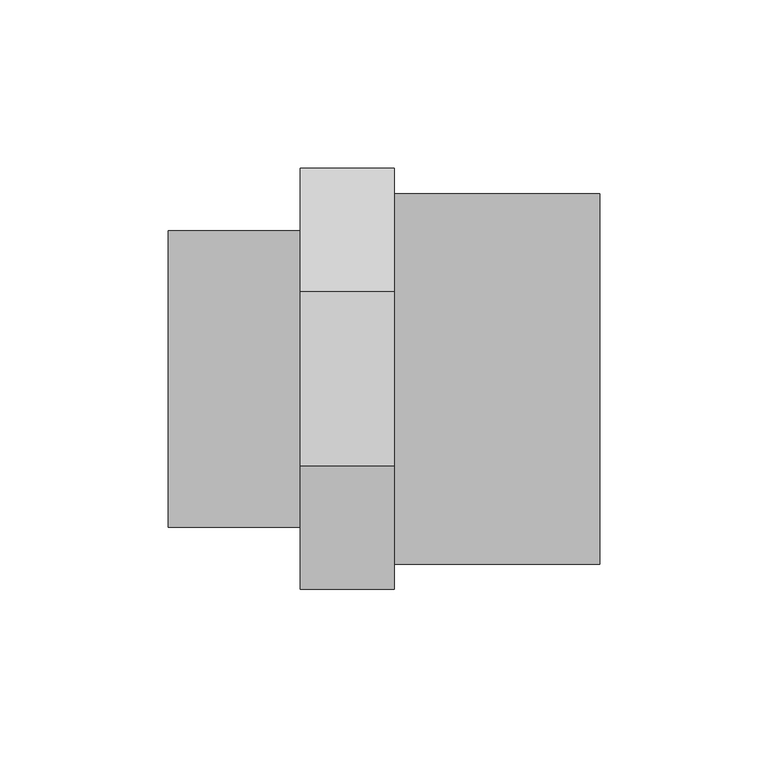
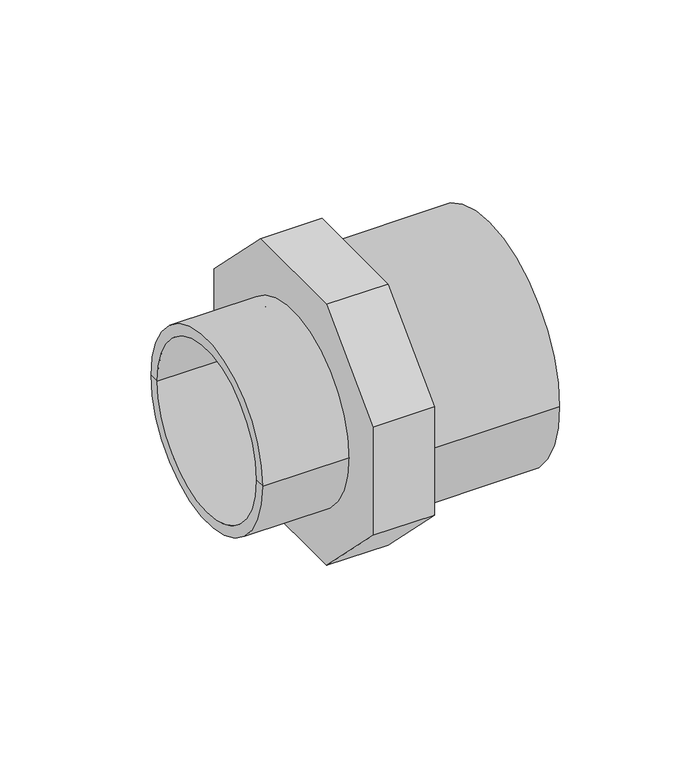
"""IFC4 building model written with IfcOpenShell, lengths in millimetres: pipe fitting geometry, Durapipe_PipeFitting_PVC_MaleThreadedAdaptors : 110 x 90 x G3."""

from ifc_helpers import new_model, si_unit, point, frame, origin, origin_2d, place, context, project, spatial, polyline, circle_curve, trimmed, segment, composite_curve, outline, extrude, source, transform, mapped, element, save
from ifc_brep_helpers import plane_surface, cylinder_surface, revolved_surface, advanced_brep


def pipe_fitting_d07ed563(model_context):
    return source(origin(), model_context, "Body", "SolidModel", [
        extrude(outline(polyline([(62.5, 25.8883476), (62.5, -25.8883476), (25.8883476, -62.5), (-25.8883476, -62.5), (-62.5, -25.8883476), (-62.5, 25.8883476), (-25.8883476, 62.5), (25.8883476, 62.5), (62.5, 25.8883476)]), holes=[composite_curve([segment(trimmed(circle_curve(origin_2d(), 39.0), [point((39.0, 0.0))], [point((-39.0, 0.0))], True, "CARTESIAN"), True, "CONTINUOUS"), segment(trimmed(circle_curve(origin_2d(), 39.0), [point((-39.0, 0.0))], [point((39.0, 0.0))], True, "CARTESIAN"), True, "CONTINUOUS")], self_intersect=False)]), frame((-27.8, 0.0, 0.0), z_axis=(1.0, 0.0, 0.0), x_axis=(0.0, 1.0, 0.0)), (0.0, 0.0, 1.0), 27.8),
        advanced_brep(
        [(0.0, -55.0, 0.0), (0.0, 55.0, 0.0), (61.0, 55.0, 0.0), (61.0, -55.0, 0.0), (61.0, 45.0, 0.0), (61.0, -45.0, 0.0), (0.0, 0.0, 0.0), (10.0, 45.0, 0.0), (10.0, -45.0, 0.0), (10.0, 0.0, 0.0)],
        [
            (0, 1, circle_curve(frame((0.0, 0.0, 0.0), z_axis=(1.0, 0.0, 0.0), x_axis=(0.0, 1.0, 0.0)), 55.0)),
            (1, 2),
            (2, 3, circle_curve(frame((61.0, 0.0, 0.0), z_axis=(-1.0, 0.0, 0.0), x_axis=(0.0, 1.0, 0.0)), 55.0)),
            (3, 0),
            (1, 0, circle_curve(frame((0.0, 0.0, 0.0), z_axis=(1.0, 0.0, 0.0), x_axis=(0.0, 1.0, 0.0)), 55.0)),
            (3, 2, circle_curve(frame((61.0, 0.0, 0.0), z_axis=(-1.0, 0.0, 0.0), x_axis=(0.0, 1.0, 0.0)), 55.0)),
            (2, 4),
            (4, 5, circle_curve(frame((61.0, 0.0, 0.0), z_axis=(-1.0, 0.0, 0.0), x_axis=(0.0, 1.0, 0.0)), 45.0)),
            (5, 3),
            (5, 4, circle_curve(frame((61.0, 0.0, 0.0), z_axis=(-1.0, 0.0, 0.0), x_axis=(0.0, 1.0, 0.0)), 45.0)),
            (0, 6),
            (6, 1),
            (7, 8, circle_curve(frame((10.0, 0.0, 0.0), z_axis=(-1.0, 0.0, 0.0), x_axis=(0.0, 1.0, 0.0)), 45.0)),
            (8, 5),
            (4, 7),
            (8, 7, circle_curve(frame((10.0, 0.0, 0.0), z_axis=(-1.0, 0.0, 0.0), x_axis=(0.0, 1.0, 0.0)), 45.0)),
            (7, 9),
            (9, 8),
        ],
        [
            cylinder_surface(frame((462.4572068, 0.0, 0.0), z_axis=(-1.0, 0.0, 0.0), x_axis=(0.0, 1.0, 0.0)), 55.0),
            plane_surface(frame((61.0, 0.0, 0.0), z_axis=(1.0, 0.0, 0.0), x_axis=(0.0, 1.0, 0.0))),
            plane_surface(frame((0.0, 0.0, 0.0), z_axis=(-1.0, 0.0, 0.0), x_axis=(0.0, 1.0, 0.0))),
            revolved_surface(polyline([(10.0, 45.0, 0.0), (61.0, 45.0, 0.0)]), (74.5575137, 0.0, 0.0), (-1.0, 0.0, 0.0)),
            plane_surface(frame((10.0, 0.0, 0.0), z_axis=(1.0, 0.0, 0.0), x_axis=(0.0, 1.0, 0.0))),
        ],
        [
            (0, [[1, 2, 3, 4]]),
            (0, [[-2, 5, -4, 6]]),
            (1, [[-3, 7, 8, 9]]),
            (1, [[-6, -9, 10, -7]]),
            (2, [[-1, 11, 12]]),
            (2, [[-5, -12, -11]]),
            (3, [[13, 14, -8, 15]]),
            (3, [[16, -15, -10, -14]]),
            (4, [[-13, 17, 18]]),
            (4, [[-16, -18, -17]]),
        ],
    ),
        advanced_brep(
        [(-27.8, -39.0, 0.0), (-27.8, 39.0, 0.0), (-67.0, 39.0, 0.0), (-67.0, -39.0, 0.0), (-27.8, -43.95, 0.0), (-27.8, 43.95, 0.0), (-67.0, -43.95, 0.0), (-67.0, 43.95, 0.0)],
        [
            (0, 1, circle_curve(frame((-27.8, 0.0, 0.0), z_axis=(1.0, 0.0, 0.0), x_axis=(0.0, 1.0, 0.0)), 39.0)),
            (1, 2),
            (2, 3, circle_curve(frame((-67.0, 0.0, 0.0), z_axis=(-1.0, 0.0, 0.0), x_axis=(0.0, 1.0, 0.0)), 39.0)),
            (3, 0),
            (1, 0, circle_curve(frame((-27.8, 0.0, 0.0), z_axis=(1.0, 0.0, 0.0), x_axis=(0.0, 1.0, 0.0)), 39.0)),
            (3, 2, circle_curve(frame((-67.0, 0.0, 0.0), z_axis=(-1.0, 0.0, 0.0), x_axis=(0.0, 1.0, 0.0)), 39.0)),
            (4, 5, circle_curve(frame((-27.8, 0.0, 0.0), z_axis=(1.0, 0.0, 0.0), x_axis=(0.0, 1.0, 0.0)), 43.95)),
            (5, 1),
            (0, 4),
            (5, 4, circle_curve(frame((-27.8, 0.0, 0.0), z_axis=(1.0, 0.0, 0.0), x_axis=(0.0, 1.0, 0.0)), 43.95)),
            (6, 7, circle_curve(frame((-67.0, 0.0, 0.0), z_axis=(1.0, 0.0, 0.0), x_axis=(0.0, 1.0, 0.0)), 43.95)),
            (7, 5),
            (4, 6),
            (7, 6, circle_curve(frame((-67.0, 0.0, 0.0), z_axis=(1.0, 0.0, 0.0), x_axis=(0.0, 1.0, 0.0)), 43.95)),
            (2, 7),
            (6, 3),
        ],
        [
            revolved_surface(polyline([(-67.0, 39.0, 0.0), (-27.799999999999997, 39.0, 0.0)]), (-82.0, 0.0, 0.0), (-1.0, 0.0, 0.0)),
            plane_surface(frame((-27.8, 0.0, 0.0), z_axis=(1.0, 0.0, 0.0), x_axis=(0.0, 1.0, 0.0))),
            cylinder_surface(frame((-82.0, 0.0, 0.0), z_axis=(-1.0, 0.0, 0.0), x_axis=(0.0, 1.0, 0.0)), 43.95),
            plane_surface(frame((-67.0, 0.0, 0.0), z_axis=(-1.0, 0.0, 0.0), x_axis=(0.0, 1.0, 0.0))),
        ],
        [
            (0, [[1, 2, 3, 4]]),
            (0, [[5, -4, 6, -2]]),
            (1, [[7, 8, -1, 9]]),
            (1, [[10, -9, -5, -8]]),
            (2, [[11, 12, -7, 13]]),
            (2, [[14, -13, -10, -12]]),
            (3, [[-3, 15, -11, 16]]),
            (3, [[-6, -16, -14, -15]]),
        ],
    ),
    ])


if __name__ == "__main__":
    model = new_model("IFC4")
    model_context = context("Model", 3, world=origin())
    ifc_project = project(units=[si_unit("LENGTHUNIT", "METRE", prefix="MILLI")], contexts=[model_context])
    site = spatial("IfcSite", under=ifc_project)
    building = spatial("IfcBuilding", under=site)
    placement = place(None, origin())
    pipe_fitting_shape = pipe_fitting_d07ed563(model_context)
    element("IfcPipeFitting", 1, ObjectType="Durapipe_PipeFitting_PVC_MaleThreadedAdaptors : 110 x 90 x G3", at=placement, inside=building, context=model_context, shape_type="MappedRepresentation", body=[
        mapped(pipe_fitting_shape, transform((0.0, 0.0, 0.0), x_axis=(1.0, 0.0, 0.0), y_axis=(0.0, 1.0, 0.0), z_axis=(0.0, 0.0, 1.0))),
    ])
    save(model, "model.ifc")
